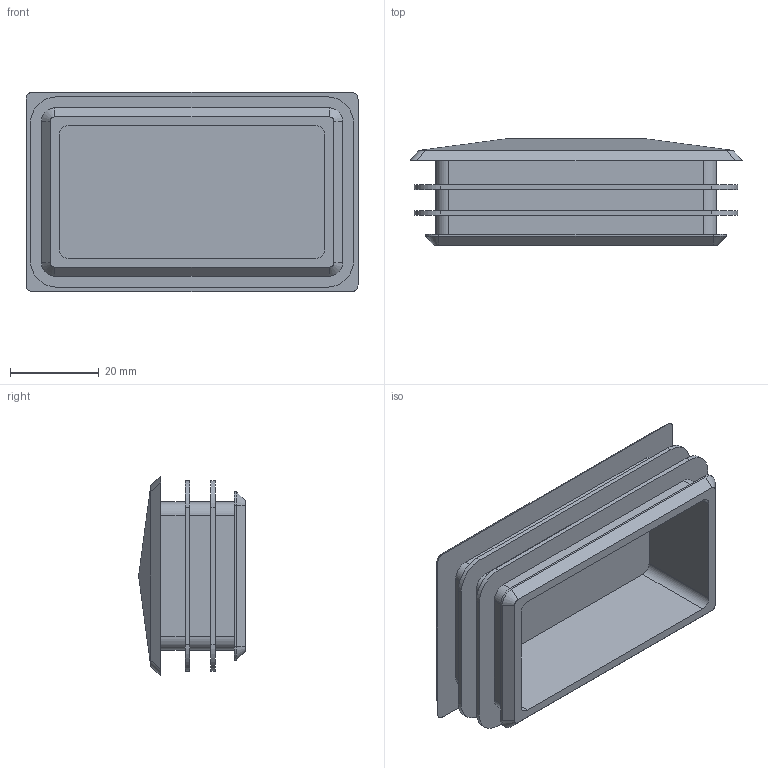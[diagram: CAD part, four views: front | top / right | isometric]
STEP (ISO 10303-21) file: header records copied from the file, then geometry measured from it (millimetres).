
FILE_DESCRIPTION(/* description */ (''),/* implementation_level */ '2;1');
FILE_NAME(/* name */ '\\Nas\db20\PR4-4575-H\DR_PR4-4575-H.stp',/* time_stamp */ '2021-01-29T17:04:20+09:00',/* author */ ('user'),/* organization */ (''),/* preprocessor_version */ 'ST-DEVELOPER v15.6',/* originating_system */ 'Autodesk Inventor 2015',/* authorisation */ '');
FILE_SCHEMA (('AUTOMOTIVE_DESIGN { 1 0 10303 214 3 1 1 }'));
Length unit declared in the file: millimetre
Products named in the file (1): DR_PR4-4575-H
Bounding box: 75 x 24.1 x 45 mm (x, y, z)
Volume: 19235.5 mm3; surface area: 18718 mm2
Topology: 1 solids, 1 shells, 84 faces, 217 edges, 142 vertices
Faces by surface type: plane 48, cylinder 32, cone 4
Entity records: 2593 total; most frequent: DIRECTION 459, CARTESIAN_POINT 444, ORIENTED_EDGE 434, EDGE_CURVE 217, AXIS2_PLACEMENT_3D 157, LINE 145, VECTOR 145, VERTEX_POINT 142
